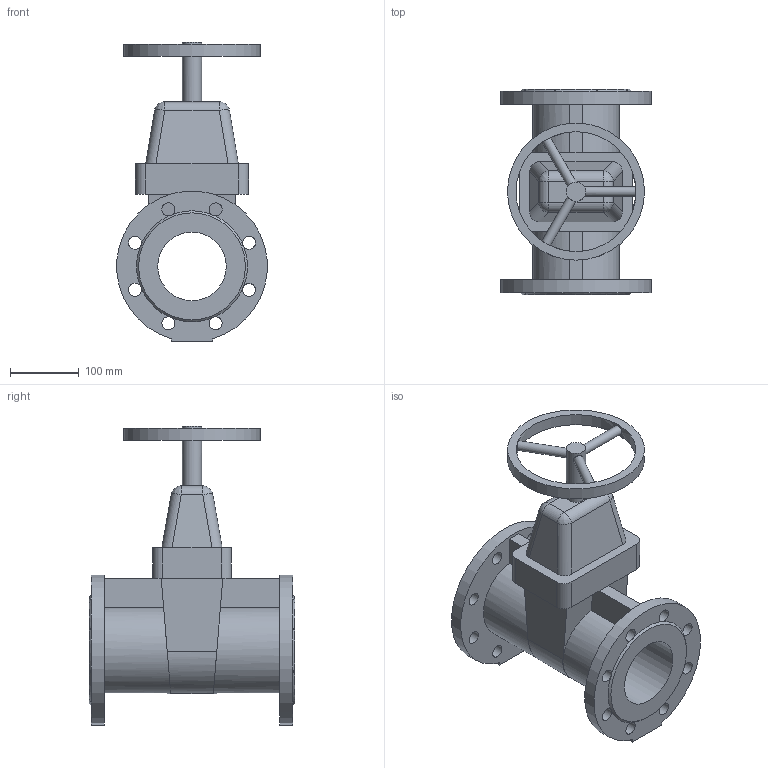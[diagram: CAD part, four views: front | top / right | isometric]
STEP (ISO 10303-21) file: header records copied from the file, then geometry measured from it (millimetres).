
FILE_DESCRIPTION(('STEP AP203'), '1');
FILE_NAME('Çàäâèæêà 47GV DN100 PN10_PN16_L300 ñ ìàõîâèêîì', '', ('UNSPECIFIED'), ('UNSPECIFIED'), 'ASCON STEP Converter 1.6', 'ASCON Math Kernel', '');
FILE_SCHEMA(('CONFIG_CONTROL_DESIGN'));
Length unit declared in the file: millimetre
Bounding box: 219.31 x 300 x 437 mm (x, y, z)
Volume: 4885087 mm3; surface area: 498416.4 mm2
Topology: 1 solids, 1 shells, 108 faces, 318 edges, 202 vertices
Faces by surface type: plane 54, cylinder 48, bspline 4, cone 2
Full cylindrical faces by diameter (mm): 14 x3, 19 x16, 28 x1, 100 x1, 175 x1, 200 x1
Entity records: 6053 total; most frequent: CARTESIAN_POINT 2334, DIRECTION 574, ORIENTED_EDGE 574, EDGE_CURVE 287, AXIS2_PLACEMENT_3D 221, VERTEX_POINT 201, EDGE_LOOP 168, FACE_BOUND 137
